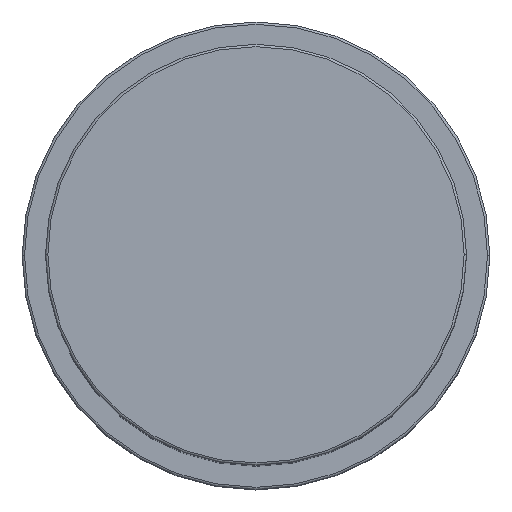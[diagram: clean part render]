
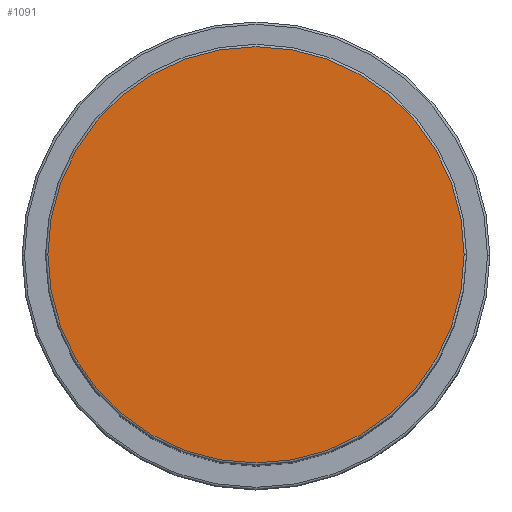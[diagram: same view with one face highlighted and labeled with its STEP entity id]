
A CAD part, top view. The second image highlights one B-rep face of the part: STEP entity #1091.
In plain terms, the highlighted planar face has unit normal (0, 0, 1).
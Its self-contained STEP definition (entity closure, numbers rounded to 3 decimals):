
#526 = VERTEX_POINT ( 'NONE', #6949 ) ;
#591 = CARTESIAN_POINT ( 'NONE',  ( 0., 0., 144. ) ) ;
#1079 = EDGE_CURVE ( 'NONE', #526, #3224, #5694, .T. ) ;
#1091 = ADVANCED_FACE ( 'NONE', ( #4374 ), #4593, .T. ) ;
#1097 = AXIS2_PLACEMENT_3D ( 'NONE', #591, #3984, #5609 ) ;
#1790 = DIRECTION ( 'NONE',  ( 1., 0., 0. ) ) ;
#1813 = CARTESIAN_POINT ( 'NONE',  ( 0., 0., 144. ) ) ;
#2835 = EDGE_CURVE ( 'NONE', #3224, #526, #5710, .T. ) ;
#3224 = VERTEX_POINT ( 'NONE', #6022 ) ;
#3831 = ORIENTED_EDGE ( 'NONE', *, *, #2835, .T. ) ;
#3984 = DIRECTION ( 'NONE',  ( 0., 0., 1. ) ) ;
#4025 = DIRECTION ( 'NONE',  ( 0., 0., 1. ) ) ;
#4374 = FACE_OUTER_BOUND ( 'NONE', #6114, .T. ) ;
#4506 = ORIENTED_EDGE ( 'NONE', *, *, #1079, .T. ) ;
#4593 = PLANE ( 'NONE',  #6015 ) ;
#5163 = DIRECTION ( 'NONE',  ( 0., 0., 1. ) ) ;
#5609 = DIRECTION ( 'NONE',  ( 1., 0., 0. ) ) ;
#5694 = CIRCLE ( 'NONE', #6054, 44.5 ) ;
#5697 = CARTESIAN_POINT ( 'NONE',  ( 0., 0., 144. ) ) ;
#5710 = CIRCLE ( 'NONE', #1097, 44.5 ) ;
#5762 = DIRECTION ( 'NONE',  ( 1., 0., 0. ) ) ;
#6015 = AXIS2_PLACEMENT_3D ( 'NONE', #5697, #5163, #5762 ) ;
#6022 = CARTESIAN_POINT ( 'NONE',  ( -44.5, 0., 144. ) ) ;
#6054 = AXIS2_PLACEMENT_3D ( 'NONE', #1813, #4025, #1790 ) ;
#6114 = EDGE_LOOP ( 'NONE', ( #4506, #3831 ) ) ;
#6949 = CARTESIAN_POINT ( 'NONE',  ( 44.5, 0., 144. ) ) ;
